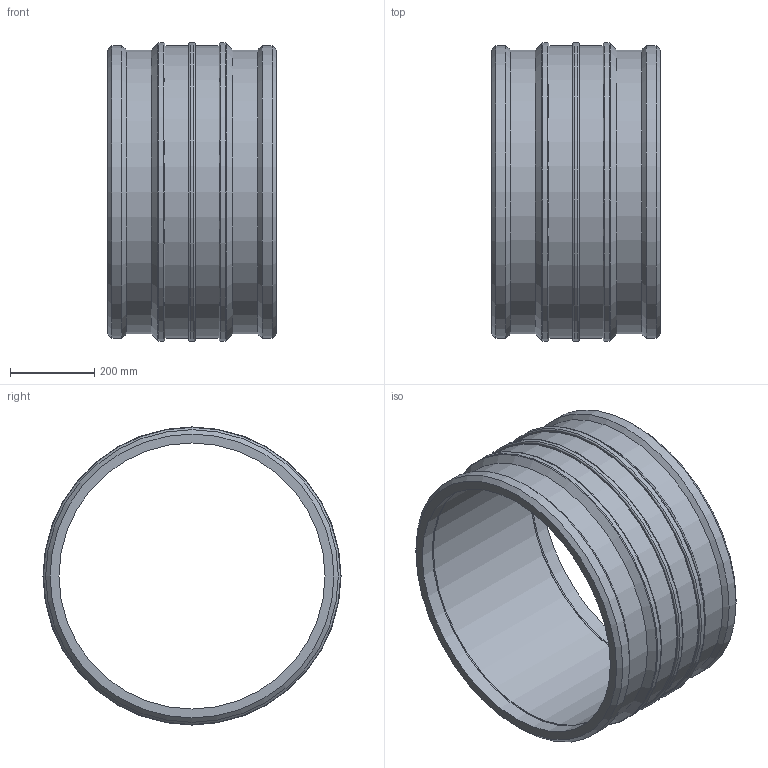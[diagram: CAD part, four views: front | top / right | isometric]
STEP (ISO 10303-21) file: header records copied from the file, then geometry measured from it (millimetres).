
FILE_DESCRIPTION(/* description */ ('PLASSON LIGHTFIT COUPLER 630N'),/* implementation_level */ '2;1');
FILE_NAME(/* name */ 'C:\Dropbox\KIMPROJECTS-Inventor\99-16-3568-Processing\ElectroFusion Fittings\24.01.19\460103\460103630N.ipt.stp',/* time_stamp */ '2019-01-24T12:32:05+02:00',/* author */ ('KIM'),/* organization */ (''),/* preprocessor_version */ 'ST-DEVELOPER v15.6',/* originating_system */ 'Autodesk Inventor 2015',/* authorisation */ '');
FILE_SCHEMA (('AUTOMOTIVE_DESIGN { 1 0 10303 214 3 1 1 }'));
Length unit declared in the file: millimetre
Products named in the file (1): 460103630N
Bounding box: 400 x 706 x 706 mm (x, y, z)
Volume: 23460957.4 mm3; surface area: 1860509.3 mm2
Topology: 1 solids, 1 shells, 48 faces, 86 edges, 50 vertices
Faces by surface type: cylinder 20, plane 14, cone 8, torus 6
Full cylindrical faces by diameter (mm): 4 x2, 10 x2, 630 x3, 672.21 x2, 691.88 x2, 693 x2, 706 x3
Entity records: 1054 total; most frequent: CARTESIAN_POINT 215, DIRECTION 190, ORIENTED_EDGE 100, AXIS2_PLACEMENT_3D 95, EDGE_LOOP 92, EDGE_CURVE 50, FACE_OUTER_BOUND 48, ADVANCED_FACE 48
